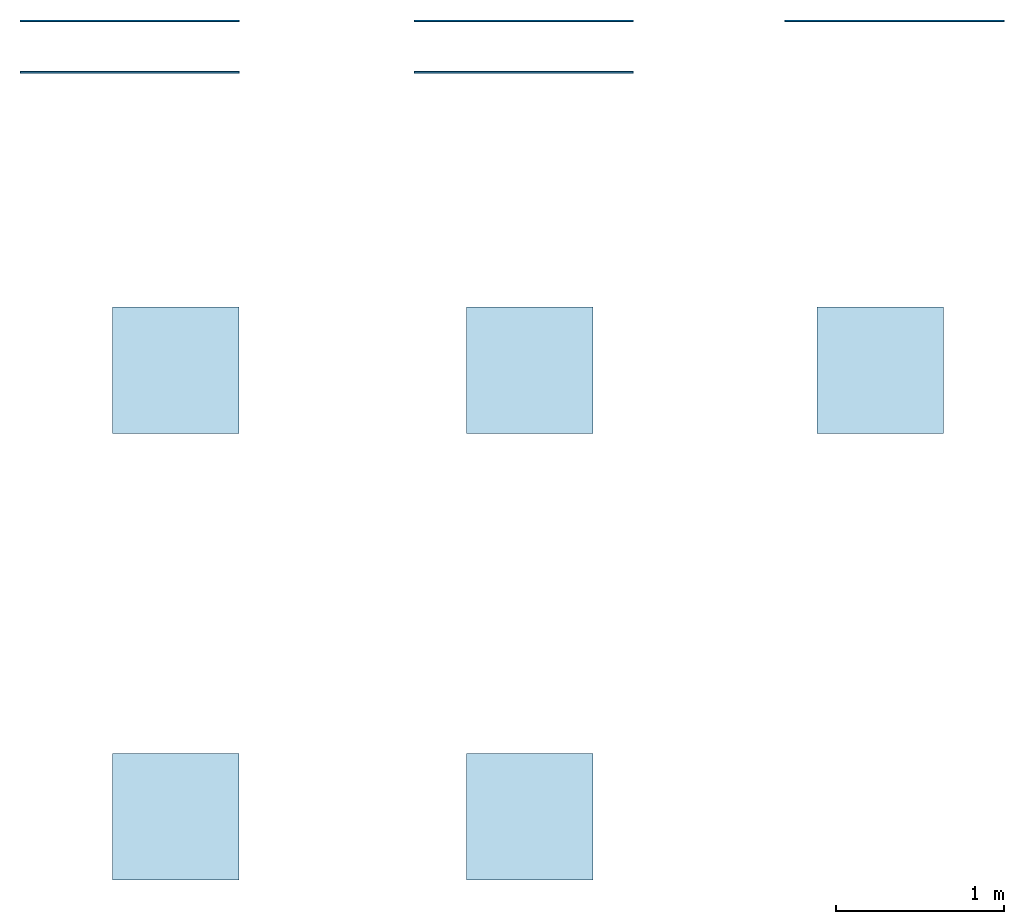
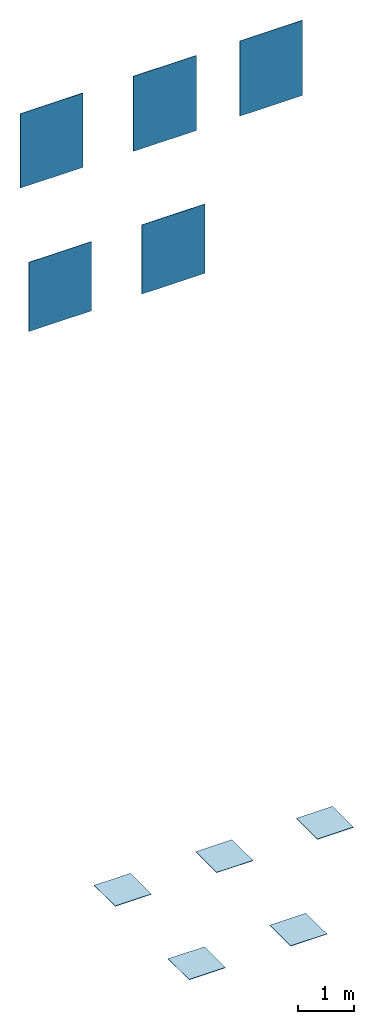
# One storey: 5 slabs, 5 walls.
"""IFC2X3 building model written with IfcOpenShell, lengths in millimetres."""

from ifc_helpers import new_model, entity, si_unit, converted_unit, derived_unit, direction, frame, frame_2d, origin, place, context, subcontext, project, spatial, rectangle, extrude, material, layer, layer_set, layer_usage, type_object, element, save


model = new_model("IFC2X3")

# Units and contexts
model_context = context("Model", 3, precision=0.01, world=origin(), true_north=direction((6.12303176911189e-17, 1.0)))
body_context = subcontext(model_context, "Body", "Model", "MODEL_VIEW")
ifc_project = project(units=[si_unit("LENGTHUNIT", "METRE", prefix="MILLI"), si_unit("AREAUNIT", "SQUARE_METRE"), si_unit("VOLUMEUNIT", "CUBIC_METRE"), converted_unit("PLANEANGLEUNIT", "DEGREE", entity("IfcRatioMeasure", 0.0174532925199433), si_unit("PLANEANGLEUNIT", "RADIAN"), dimensions=[0, 0, 0, 0, 0, 0, 0]), si_unit("MASSUNIT", "GRAM", prefix="KILO"), derived_unit("MASSDENSITYUNIT", [(si_unit("MASSUNIT", "GRAM", prefix="KILO"), 1), (si_unit("LENGTHUNIT", "METRE"), -3)]), derived_unit("MOMENTOFINERTIAUNIT", [(si_unit("LENGTHUNIT", "METRE"), 4)]), si_unit("TIMEUNIT", "SECOND"), si_unit("FREQUENCYUNIT", "HERTZ"), si_unit("THERMODYNAMICTEMPERATUREUNIT", "DEGREE_CELSIUS"), derived_unit("THERMALTRANSMITTANCEUNIT", [(si_unit("MASSUNIT", "GRAM", prefix="KILO"), 1), (si_unit("THERMODYNAMICTEMPERATUREUNIT", "KELVIN"), -1), (si_unit("TIMEUNIT", "SECOND"), -3)]), derived_unit("VOLUMETRICFLOWRATEUNIT", [(si_unit("LENGTHUNIT", "METRE"), 3), (si_unit("TIMEUNIT", "SECOND"), -1)]), si_unit("ELECTRICCURRENTUNIT", "AMPERE"), si_unit("ELECTRICVOLTAGEUNIT", "VOLT"), si_unit("POWERUNIT", "WATT"), si_unit("FORCEUNIT", "NEWTON", prefix="KILO"), si_unit("ILLUMINANCEUNIT", "LUX"), si_unit("LUMINOUSFLUXUNIT", "LUMEN"), si_unit("LUMINOUSINTENSITYUNIT", "CANDELA"), derived_unit("USERDEFINED", [(si_unit("MASSUNIT", "GRAM", prefix="KILO"), -1), (si_unit("LENGTHUNIT", "METRE"), -2), (si_unit("TIMEUNIT", "SECOND"), 3), (si_unit("LUMINOUSFLUXUNIT", "LUMEN"), 1)]), derived_unit("LINEARVELOCITYUNIT", [(si_unit("LENGTHUNIT", "METRE"), 1), (si_unit("TIMEUNIT", "SECOND"), -1)]), si_unit("PRESSUREUNIT", "PASCAL"), derived_unit("USERDEFINED", [(si_unit("LENGTHUNIT", "METRE"), -2), (si_unit("MASSUNIT", "GRAM", prefix="KILO"), 1), (si_unit("TIMEUNIT", "SECOND"), -2)]), derived_unit("LINEARFORCEUNIT", [(si_unit("MASSUNIT", "GRAM", prefix="KILO"), 1), (si_unit("LENGTHUNIT", "METRE"), 1), (si_unit("TIMEUNIT", "SECOND"), -2), (si_unit("LENGTHUNIT", "METRE"), -1)]), derived_unit("PLANARFORCEUNIT", [(si_unit("MASSUNIT", "GRAM", prefix="KILO"), 1), (si_unit("LENGTHUNIT", "METRE"), 1), (si_unit("TIMEUNIT", "SECOND"), -2), (si_unit("LENGTHUNIT", "METRE"), -2)])], contexts=[model_context])

# Site, building, storey
site_placement = place(None, origin())
site = spatial("IfcSite", under=ifc_project, at=site_placement, Name="Default", CompositionType="ELEMENT")
building_placement = place(site_placement, origin())
building = spatial("IfcBuilding", under=site, at=building_placement, CompositionType="ELEMENT")
storey_placement = place(building_placement, origin())
storey = spatial("IfcBuildingStorey", under=building, at=storey_placement, Name="Level 0", CompositionType="ELEMENT", Elevation=0.0)

# Slabs
ifc_material_1 = material(Name="Mansion-Lounge-75x75 LI74")
ifc_layer_1 = layer(ifc_material_1, 9.0)
ifc_material_2 = material(Name="<Unnamed>")
ifc_layer_2 = layer(ifc_material_2, 1.0)
ifc_layer_set_1 = layer_set([ifc_layer_1, ifc_layer_2], Name="Floor:Floor_Tiles_Refin-Mansion-Lounge-75x75 LI74")
ifc_layer_usage_1 = layer_usage(ifc_layer_set_1, "AXIS3", "POSITIVE", 0.0)
slab_type_1 = type_object("IfcSlabType", Name="Floor:Floor_Tiles_Refin-Mansion-Lounge-75x75 LI74", PredefinedType="FLOOR", material=ifc_layer_set_1)
slab_1_placement = place(storey_placement, origin())
element("IfcSlab", 1, at=slab_1_placement, inside=storey, type_object=slab_type_1, material=ifc_layer_usage_1, Name="Floor:Floor_Tiles_Refin-Mansion-Lounge-75x75 LI74", ObjectType="Floor:Floor_Tiles_Refin-Mansion-Lounge-75x75 LI74", PredefinedType="FLOOR", context=body_context, shape_type="SweptSolid", body=[
    extrude(rectangle(XDim=750.0, YDim=750.000000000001, at=frame_2d((2.55795384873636e-13, 1.08002495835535e-12), x_axis=(1.0, 0.0))), frame((8942.39240545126, 3414.4623742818, 0.0), z_axis=(0.0, 0.0, -1.0), x_axis=(0.0, 1.0, 0.0)), (0.0, 0.0, 1.0), 10.0),
])
ifc_material_3 = material(Name="Mansion-Hall-75x75 LI72")
ifc_layer_3 = layer(ifc_material_3, 9.0)
ifc_layer_4 = layer(ifc_material_2, 1.0)
ifc_layer_set_2 = layer_set([ifc_layer_3, ifc_layer_4], Name="Floor:Floor_Tiles_Refin-Mansion-Hall-75x75 LI72")
ifc_layer_usage_2 = layer_usage(ifc_layer_set_2, "AXIS3", "POSITIVE", 0.0)
slab_type_2 = type_object("IfcSlabType", Name="Floor:Floor_Tiles_Refin-Mansion-Hall-75x75 LI72", PredefinedType="FLOOR", material=ifc_layer_set_2)
slab_2_placement = place(storey_placement, origin())
element("IfcSlab", 2, at=slab_2_placement, inside=storey, type_object=slab_type_2, material=ifc_layer_usage_2, Name="Floor:Floor_Tiles_Refin-Mansion-Hall-75x75 LI72", ObjectType="Floor:Floor_Tiles_Refin-Mansion-Hall-75x75 LI72", PredefinedType="FLOOR", context=body_context, shape_type="SweptSolid", body=[
    extrude(rectangle(XDim=750.0, YDim=750.000000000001, at=frame_2d((-5.40012479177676e-13, 1.08002495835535e-12), x_axis=(1.0, 0.0))), frame((11022.3924054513, 6063.41920639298, 0.0), z_axis=(0.0, 0.0, -1.0), x_axis=(0.0, 1.0, 0.0)), (0.0, 0.0, 1.0), 10.0),
])
ifc_material_4 = material(Name="Mansion-Arcade-75x75 LI70")
ifc_layer_5 = layer(ifc_material_4, 9.0)
ifc_layer_6 = layer(ifc_material_2, 1.0)
ifc_layer_set_3 = layer_set([ifc_layer_5, ifc_layer_6], Name="Floor:Floor_Tiles_Refin-Mansion-Arcade-75x75 LI70")
ifc_layer_usage_3 = layer_usage(ifc_layer_set_3, "AXIS3", "POSITIVE", 0.0)
slab_type_3 = type_object("IfcSlabType", Name="Floor:Floor_Tiles_Refin-Mansion-Arcade-75x75 LI70", PredefinedType="FLOOR", material=ifc_layer_set_3)
slab_3_placement = place(storey_placement, origin())
element("IfcSlab", 3, at=slab_3_placement, inside=storey, type_object=slab_type_3, material=ifc_layer_usage_3, Name="Floor:Floor_Tiles_Refin-Mansion-Arcade-75x75 LI70", ObjectType="Floor:Floor_Tiles_Refin-Mansion-Arcade-75x75 LI70", PredefinedType="FLOOR", context=body_context, shape_type="SweptSolid", body=[
    extrude(rectangle(XDim=750.0, YDim=750.000000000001, at=frame_2d((-5.40012479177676e-13, -1.08002495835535e-12), x_axis=(1.0, 0.0))), frame((6842.39240545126, 6063.419206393, 0.0), z_axis=(0.0, 0.0, -1.0), x_axis=(0.0, 1.0, 0.0)), (0.0, 0.0, 1.0), 10.0),
])
ifc_material_5 = material(Name="Mansion-Court-75x75 LI71")
ifc_layer_7 = layer(ifc_material_5, 9.0)
ifc_layer_8 = layer(ifc_material_2, 1.0)
ifc_layer_set_4 = layer_set([ifc_layer_7, ifc_layer_8], Name="Floor:Floor_Tiles_Refin-Mansion-Court-75x75 LI71")
ifc_layer_usage_4 = layer_usage(ifc_layer_set_4, "AXIS3", "POSITIVE", 0.0)
slab_type_4 = type_object("IfcSlabType", Name="Floor:Floor_Tiles_Refin-Mansion-Court-75x75 LI71", PredefinedType="FLOOR", material=ifc_layer_set_4)
slab_4_placement = place(storey_placement, origin())
element("IfcSlab", 4, at=slab_4_placement, inside=storey, type_object=slab_type_4, material=ifc_layer_usage_4, Name="Floor:Floor_Tiles_Refin-Mansion-Court-75x75 LI71", ObjectType="Floor:Floor_Tiles_Refin-Mansion-Court-75x75 LI71", PredefinedType="FLOOR", context=body_context, shape_type="SweptSolid", body=[
    extrude(rectangle(XDim=750.0, YDim=750.000000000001, at=frame_2d((-5.40012479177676e-13, -1.08002495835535e-12), x_axis=(1.0, 0.0))), frame((8942.39240545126, 6063.41920639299, 0.0), z_axis=(0.0, 0.0, -1.0), x_axis=(0.0, 1.0, 0.0)), (0.0, 0.0, 1.0), 10.0),
])
ifc_material_6 = material(Name="Mansion-Library-75x75 LI73")
ifc_layer_9 = layer(ifc_material_6, 9.0)
ifc_layer_10 = layer(ifc_material_2, 1.0)
ifc_layer_set_5 = layer_set([ifc_layer_9, ifc_layer_10], Name="Floor:Floor_Tiles_Refin-Mansion-Library-75x75 LI73")
ifc_layer_usage_5 = layer_usage(ifc_layer_set_5, "AXIS3", "POSITIVE", 0.0)
slab_type_5 = type_object("IfcSlabType", Name="Floor:Floor_Tiles_Refin-Mansion-Library-75x75 LI73", PredefinedType="FLOOR", material=ifc_layer_set_5)
slab_5_placement = place(storey_placement, origin())
element("IfcSlab", 5, at=slab_5_placement, inside=storey, type_object=slab_type_5, material=ifc_layer_usage_5, Name="Floor:Floor_Tiles_Refin-Mansion-Library-75x75 LI73", ObjectType="Floor:Floor_Tiles_Refin-Mansion-Library-75x75 LI73", PredefinedType="FLOOR", context=body_context, shape_type="SweptSolid", body=[
    extrude(rectangle(XDim=750.0, YDim=750.000000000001, at=frame_2d((-2.55795384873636e-13, 1.08002495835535e-12), x_axis=(1.0, 0.0))), frame((6842.39240545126, 3414.46237428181, 0.0), z_axis=(0.0, 0.0, -1.0), x_axis=(0.0, 1.0, 0.0)), (0.0, 0.0, 1.0), 10.0),
])

# Walls
ifc_layer_11 = layer(ifc_material_2, 1.0)
ifc_layer_12 = layer(ifc_material_5, 9.0)
ifc_layer_set_6 = layer_set([ifc_layer_11, ifc_layer_12], Name="Basic Wall:Wall_Tiles_Refin-Mansion-Court-75x75 LI71")
ifc_layer_usage_6 = layer_usage(ifc_layer_set_6, "AXIS2", "NEGATIVE", 5.0)
wall_type_1 = type_object("IfcWallType", Name="Basic Wall:Wall_Tiles_Refin-Mansion-Court-75x75 LI71", PredefinedType="STANDARD", material=ifc_layer_set_6)
wall_1_placement = place(storey_placement, frame((8257.37520617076, 8137.38386313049, 14387.6770443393)))
element("IfcWallStandardCase", 6, at=wall_1_placement, inside=storey, type_object=wall_type_1, material=ifc_layer_usage_6, Name="Basic Wall:Wall_Tiles_Refin-Mansion-Court-75x75 LI71", ObjectType="Basic Wall:Wall_Tiles_Refin-Mansion-Court-75x75 LI71", context=body_context, shape_type="SweptSolid", body=[
    extrude(rectangle(XDim=1300.0, YDim=9.99999999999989, at=frame_2d((650.0, 7.63833440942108e-14), x_axis=(-1.0, 0.0))), origin(), (0.0, 0.0, 1.0), 1641.74173522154),
])
ifc_layer_13 = layer(ifc_material_2, 1.0)
ifc_layer_14 = layer(ifc_material_3, 9.0)
ifc_layer_set_7 = layer_set([ifc_layer_13, ifc_layer_14], Name="Basic Wall:Wall_Tiles_Refin-Mansion-Hall-75x75 LI72")
ifc_layer_usage_7 = layer_usage(ifc_layer_set_7, "AXIS2", "NEGATIVE", 5.0)
wall_type_2 = type_object("IfcWallType", Name="Basic Wall:Wall_Tiles_Refin-Mansion-Hall-75x75 LI72", PredefinedType="STANDARD", material=ifc_layer_set_7)
wall_2_placement = place(storey_placement, frame((10457.3752061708, 8137.38386313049, 14387.6770443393)))
element("IfcWallStandardCase", 7, at=wall_2_placement, inside=storey, type_object=wall_type_2, material=ifc_layer_usage_7, Name="Basic Wall:Wall_Tiles_Refin-Mansion-Hall-75x75 LI72", ObjectType="Basic Wall:Wall_Tiles_Refin-Mansion-Hall-75x75 LI72", context=body_context, shape_type="SweptSolid", body=[
    extrude(rectangle(XDim=1300.0, YDim=9.99999999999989, at=frame_2d((650.0, 7.63833440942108e-14), x_axis=(-1.0, 0.0))), origin(), (0.0, 0.0, 1.0), 1641.74173522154),
])
ifc_layer_15 = layer(ifc_material_2, 1.0)
ifc_layer_16 = layer(ifc_material_4, 9.0)
ifc_layer_set_8 = layer_set([ifc_layer_15, ifc_layer_16], Name="Basic Wall:Wall_Tiles_Refin-Mansion-Arcade-75x75 LI70")
ifc_layer_usage_8 = layer_usage(ifc_layer_set_8, "AXIS2", "NEGATIVE", 5.0)
wall_type_3 = type_object("IfcWallType", Name="Basic Wall:Wall_Tiles_Refin-Mansion-Arcade-75x75 LI70", PredefinedType="STANDARD", material=ifc_layer_set_8)
wall_3_placement = place(storey_placement, frame((5917.37520617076, 8137.38386313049, 14403.726734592)))
element("IfcWallStandardCase", 8, at=wall_3_placement, inside=storey, type_object=wall_type_3, material=ifc_layer_usage_8, Name="Basic Wall:Wall_Tiles_Refin-Mansion-Arcade-75x75 LI70", ObjectType="Basic Wall:Wall_Tiles_Refin-Mansion-Arcade-75x75 LI70", context=body_context, shape_type="SweptSolid", body=[
    extrude(rectangle(XDim=1300.0, YDim=9.99999999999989, at=frame_2d((650.0, 7.63833440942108e-14), x_axis=(-1.0, 0.0))), origin(), (0.0, 0.0, 1.0), 1625.69204496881),
])
ifc_layer_17 = layer(ifc_material_2, 1.0)
ifc_layer_18 = layer(ifc_material_6, 9.0)
ifc_layer_set_9 = layer_set([ifc_layer_17, ifc_layer_18], Name="Basic Wall:Wall_Tiles_Refin-Mansion-Library-75x75 LI73")
ifc_layer_usage_9 = layer_usage(ifc_layer_set_9, "AXIS2", "NEGATIVE", 5.0)
wall_type_4 = type_object("IfcWallType", Name="Basic Wall:Wall_Tiles_Refin-Mansion-Library-75x75 LI73", PredefinedType="STANDARD", material=ifc_layer_set_9)
wall_4_placement = place(storey_placement, frame((5917.37520617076, 7832.38386313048, 11452.5436262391)))
element("IfcWallStandardCase", 9, at=wall_4_placement, inside=storey, type_object=wall_type_4, material=ifc_layer_usage_9, Name="Basic Wall:Wall_Tiles_Refin-Mansion-Library-75x75 LI73", ObjectType="Basic Wall:Wall_Tiles_Refin-Mansion-Library-75x75 LI73", context=body_context, shape_type="SweptSolid", body=[
    extrude(rectangle(XDim=1300.0, YDim=9.99999999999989, at=frame_2d((650.0, 0.0), x_axis=(-1.0, 0.0))), origin(), (0.0, 0.0, 1.0), 1513.19855655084),
])
ifc_layer_19 = layer(ifc_material_2, 1.0)
ifc_layer_20 = layer(ifc_material_1, 9.0)
ifc_layer_set_10 = layer_set([ifc_layer_19, ifc_layer_20], Name="Basic Wall:Wall_Tiles_Refin-Mansion-Lounge-75x75 LI74")
ifc_layer_usage_10 = layer_usage(ifc_layer_set_10, "AXIS2", "NEGATIVE", 5.0)
wall_type_5 = type_object("IfcWallType", Name="Basic Wall:Wall_Tiles_Refin-Mansion-Lounge-75x75 LI74", PredefinedType="STANDARD", material=ifc_layer_set_10)
wall_5_placement = place(storey_placement, frame((8257.37520617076, 7832.38386313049, 11452.5436262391)))
element("IfcWallStandardCase", 10, at=wall_5_placement, inside=storey, type_object=wall_type_5, material=ifc_layer_usage_10, Name="Basic Wall:Wall_Tiles_Refin-Mansion-Lounge-75x75 LI74", ObjectType="Basic Wall:Wall_Tiles_Refin-Mansion-Lounge-75x75 LI74", context=body_context, shape_type="SweptSolid", body=[
    extrude(rectangle(XDim=1300.0, YDim=9.99999999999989, at=frame_2d((650.0, 0.0), x_axis=(-1.0, 0.0))), origin(), (0.0, 0.0, 1.0), 1513.19855655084),
])

save(model, "model.ifc")
